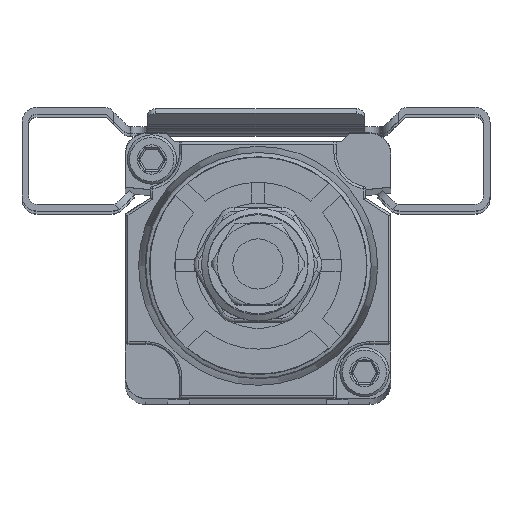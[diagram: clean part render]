
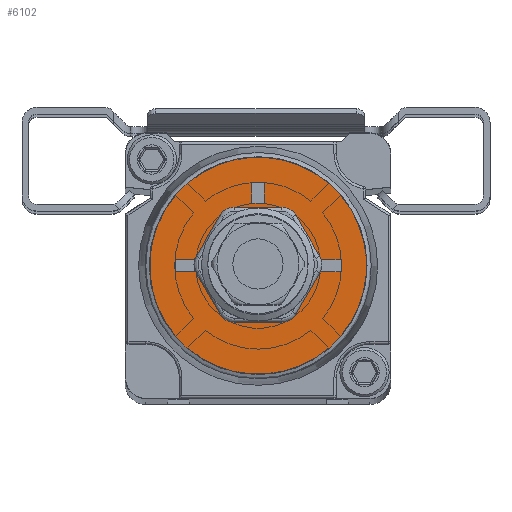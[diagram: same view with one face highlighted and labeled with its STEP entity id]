
A CAD part, top view. The second image highlights one B-rep face of the part: STEP entity #6102.
In plain terms, the highlighted planar face has unit normal (0, 0, 1).
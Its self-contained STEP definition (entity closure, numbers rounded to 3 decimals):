
#1881=LINE('',#32183,#3678);
#1884=LINE('',#32189,#3681);
#1887=LINE('',#32195,#3684);
#1889=LINE('',#32198,#3686);
#1896=LINE('',#32221,#3693);
#1900=LINE('',#32228,#3697);
#1902=LINE('',#32232,#3699);
#1904=LINE('',#32235,#3701);
#1905=LINE('',#32245,#3702);
#1906=LINE('',#32248,#3703);
#1907=LINE('',#32250,#3704);
#1908=LINE('',#32252,#3705);
#3678=VECTOR('',#23871,1.);
#3681=VECTOR('',#23876,1.);
#3684=VECTOR('',#23881,1.);
#3686=VECTOR('',#23885,1.);
#3693=VECTOR('',#23906,1.);
#3697=VECTOR('',#23912,1.);
#3699=VECTOR('',#23916,1.);
#3701=VECTOR('',#23920,1.);
#3702=VECTOR('',#23933,1.);
#3703=VECTOR('',#23934,1.);
#3704=VECTOR('',#23935,1.);
#3705=VECTOR('',#23936,1.);
#5430=PLANE('',#21495);
#6102=ADVANCED_FACE('',(#7595,#7596,#7597,#7598,#7599),#5430,.T.);
#7595=FACE_BOUND('',#8088,.T.);
#7596=FACE_BOUND('',#8089,.T.);
#7597=FACE_BOUND('',#8090,.T.);
#7598=FACE_BOUND('',#8091,.T.);
#7599=FACE_BOUND('',#8092,.T.);
#8088=EDGE_LOOP('',(#9991));
#8089=EDGE_LOOP('',(#9992,#9993,#9994,#9995));
#8090=EDGE_LOOP('',(#9996,#9997,#9998,#9999));
#8091=EDGE_LOOP('',(#10000,#10001,#10002,#10003));
#8092=EDGE_LOOP('',(#10004));
#9991=ORIENTED_EDGE('',*,*,#17745,.F.);
#9992=ORIENTED_EDGE('',*,*,#17755,.F.);
#9993=ORIENTED_EDGE('',*,*,#17758,.F.);
#9994=ORIENTED_EDGE('',*,*,#17761,.F.);
#9995=ORIENTED_EDGE('',*,*,#17763,.F.);
#9996=ORIENTED_EDGE('',*,*,#17786,.F.);
#9997=ORIENTED_EDGE('',*,*,#17787,.F.);
#9998=ORIENTED_EDGE('',*,*,#17788,.F.);
#9999=ORIENTED_EDGE('',*,*,#17789,.F.);
#10000=ORIENTED_EDGE('',*,*,#17774,.F.);
#10001=ORIENTED_EDGE('',*,*,#17778,.F.);
#10002=ORIENTED_EDGE('',*,*,#17780,.F.);
#10003=ORIENTED_EDGE('',*,*,#17782,.F.);
#10004=ORIENTED_EDGE('',*,*,#17785,.F.);
#15598=VERTEX_POINT('',#32160);
#15607=VERTEX_POINT('',#32182);
#15608=VERTEX_POINT('',#32184);
#15609=VERTEX_POINT('',#32188);
#15611=VERTEX_POINT('',#32194);
#15620=VERTEX_POINT('',#32220);
#15621=VERTEX_POINT('',#32222);
#15622=VERTEX_POINT('',#32227);
#15623=VERTEX_POINT('',#32231);
#15626=VERTEX_POINT('',#32243);
#15627=VERTEX_POINT('',#32246);
#15628=VERTEX_POINT('',#32247);
#15629=VERTEX_POINT('',#32249);
#15630=VERTEX_POINT('',#32251);
#17745=EDGE_CURVE('',#15598,#15598,#20536,.T.);
#17755=EDGE_CURVE('',#15607,#15608,#1881,.T.);
#17758=EDGE_CURVE('',#15609,#15607,#1884,.T.);
#17761=EDGE_CURVE('',#15611,#15609,#1887,.T.);
#17763=EDGE_CURVE('',#15608,#15611,#1889,.T.);
#17774=EDGE_CURVE('',#15620,#15621,#1896,.T.);
#17778=EDGE_CURVE('',#15622,#15620,#1900,.T.);
#17780=EDGE_CURVE('',#15623,#15622,#1902,.T.);
#17782=EDGE_CURVE('',#15621,#15623,#1904,.T.);
#17785=EDGE_CURVE('',#15626,#15626,#20547,.T.);
#17786=EDGE_CURVE('',#15627,#15628,#1905,.T.);
#17787=EDGE_CURVE('',#15629,#15627,#1906,.T.);
#17788=EDGE_CURVE('',#15630,#15629,#1907,.T.);
#17789=EDGE_CURVE('',#15628,#15630,#1908,.T.);
#20536=CIRCLE('',#21467,3.993);
#20547=CIRCLE('',#21493,13.037);
#21467=AXIS2_PLACEMENT_3D('',#32159,#23848,#23849);
#21493=AXIS2_PLACEMENT_3D('',#32242,#23929,#23930);
#21495=AXIS2_PLACEMENT_3D('',#32253,#23937,#23938);
#23848=DIRECTION('',(0.,0.,1.));
#23849=DIRECTION('',(1.,0.,0.));
#23871=DIRECTION('',(0.,-1.,0.));
#23876=DIRECTION('',(-1.,0.,0.));
#23881=DIRECTION('',(0.,1.,0.));
#23885=DIRECTION('',(1.,0.,0.));
#23906=DIRECTION('',(0.,1.,0.));
#23912=DIRECTION('',(1.,0.,0.));
#23916=DIRECTION('',(0.,-1.,0.));
#23920=DIRECTION('',(-1.,0.,0.));
#23929=DIRECTION('',(0.,0.,-1.));
#23930=DIRECTION('',(-1.,0.,0.));
#23933=DIRECTION('',(1.,0.,0.));
#23934=DIRECTION('',(0.,-1.,0.));
#23935=DIRECTION('',(-1.,0.,0.));
#23936=DIRECTION('',(0.,1.,0.));
#23937=DIRECTION('',(0.,0.,1.));
#23938=DIRECTION('',(1.,0.,0.));
#32159=CARTESIAN_POINT('',(-69.977,-15.873,-114.636));
#32160=CARTESIAN_POINT('',(-65.984,-15.873,-114.636));
#32182=CARTESIAN_POINT('',(-70.726,-5.928,-114.636));
#32183=CARTESIAN_POINT('',(-70.726,-5.928,-114.636));
#32184=CARTESIAN_POINT('',(-70.726,-8.424,-114.636));
#32188=CARTESIAN_POINT('',(-69.229,-5.928,-114.636));
#32189=CARTESIAN_POINT('',(-69.229,-5.928,-114.636));
#32194=CARTESIAN_POINT('',(-69.229,-8.424,-114.636));
#32195=CARTESIAN_POINT('',(-69.229,-8.424,-114.636));
#32198=CARTESIAN_POINT('',(-70.726,-8.424,-114.636));
#32220=CARTESIAN_POINT('',(-60.033,-16.621,-114.636));
#32221=CARTESIAN_POINT('',(-60.033,-16.621,-114.636));
#32222=CARTESIAN_POINT('',(-60.033,-15.124,-114.636));
#32227=CARTESIAN_POINT('',(-62.528,-16.621,-114.636));
#32228=CARTESIAN_POINT('',(-62.528,-16.621,-114.636));
#32231=CARTESIAN_POINT('',(-62.528,-15.124,-114.636));
#32232=CARTESIAN_POINT('',(-62.528,-15.124,-114.636));
#32235=CARTESIAN_POINT('',(-60.033,-15.124,-114.636));
#32242=CARTESIAN_POINT('',(-69.977,-15.873,-114.636));
#32243=CARTESIAN_POINT('',(-83.014,-15.873,-114.636));
#32245=CARTESIAN_POINT('',(-79.922,-16.621,-114.636));
#32246=CARTESIAN_POINT('',(-79.922,-16.621,-114.636));
#32247=CARTESIAN_POINT('',(-77.426,-16.621,-114.636));
#32248=CARTESIAN_POINT('',(-79.922,-15.124,-114.636));
#32249=CARTESIAN_POINT('',(-79.922,-15.124,-114.636));
#32250=CARTESIAN_POINT('',(-77.426,-15.124,-114.636));
#32251=CARTESIAN_POINT('',(-77.426,-15.124,-114.636));
#32252=CARTESIAN_POINT('',(-77.426,-16.621,-114.636));
#32253=CARTESIAN_POINT('',(-69.977,-15.873,-114.636));
